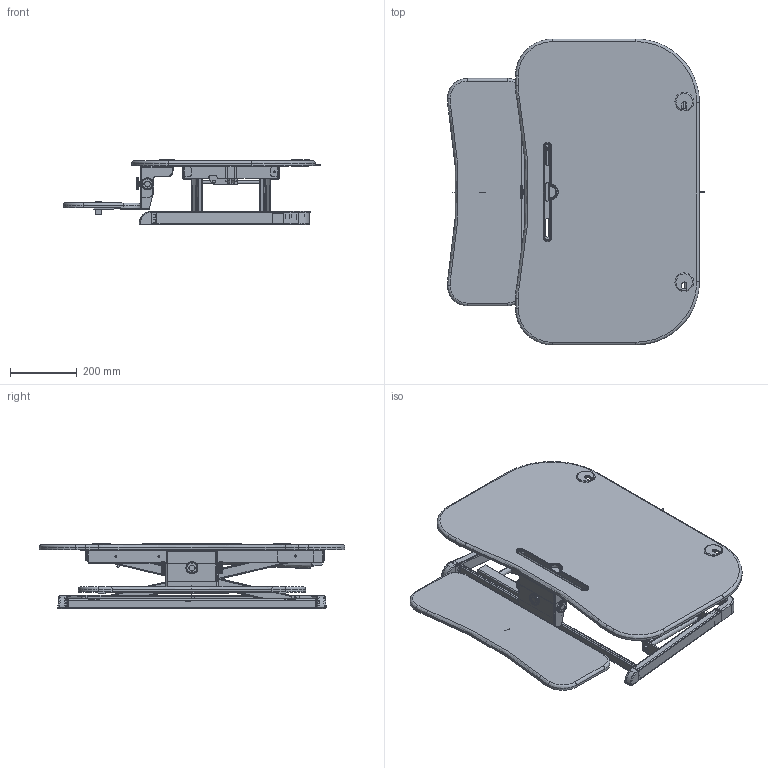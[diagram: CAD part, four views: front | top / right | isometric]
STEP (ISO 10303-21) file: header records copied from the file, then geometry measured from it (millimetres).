
FILE_DESCRIPTION(/* description */ (''),/* implementation_level */ '2;1');
FILE_NAME(/* name */ 'JI-U82~1',/* time_stamp */ '2020-11-05T10:46:57+08:00',/* author */ (''),/* organization */ (''),/* preprocessor_version */ 'ST-DEVELOPER v16.5',/* originating_system */ '',/* authorisation */ '');
FILE_SCHEMA (('AUTOMOTIVE_DESIGN'));
Products named in the file (48): Document; 01-G4-2-_20; ZHUOB-1-X-1_8_1_2_1_12; LUOMU-MEIHUA_1_1_2_1_8; 01-G6_4; 01-G5_19; 01-G4_30; 1-12-2_11; ZHUOB-1-DA_18_1_2_1_22; 1-PLA_39; XIANHE_5; HM-N2_15; HM-M_6; HM-N_8; PRT0036-R_18; 1-15_3; ASM0006-DDTG-LONG_ASM_2_ASM; 001-GDDTG__2; 01-GG2__5; 图块 02; JI-U8-1_11; PRT0037_29; PRT0036_44; 2-2-1_28; 01-8-2_32; 图块 01; 14X30_15; 2-2_51; 18X358-5_ASM_12_ASM; 18X1X358-5_43_ASM; 18X1X358-5_43_1; 18X1X358-5_43_2; 18X1X358-5_43_3; LUOWEN-TIEPIAN_6_1_2_15; 1-ZHOUCHENG_9; 18XNEI_ASM_30_ASM; 18X1XJUGUANG_52_ASM; 18X1XJUGUANG_52_1; 18X1XJUGUANG_52_2; 18X1XJUGUANG_52_3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
Assembly tree (67 placements, depth 4):
  Document
    01-G4-2-_20
    ZHUOB-1-X-1_8_1_2_1_12
    LUOMU-MEIHUA_1_1_2_1_8  x3
    01-G6_4
    01-G5_19
    01-G4_30
    1-12-2_11  x4
    ZHUOB-1-DA_18_1_2_1_22
    1-PLA_39
    XIANHE_5  x2
    HM-N2_15  x2
    HM-M_6
    HM-N_8
    PRT0036-R_18
    1-15_3
    ASM0006-DDTG-LONG_ASM_2_ASM
      001-GDDTG__2
      01-GG2__5
        图块 02
    JI-U8-1_11  x2
    PRT0037_29
    PRT0036_44  x2
    2-2-1_28  x2
    01-8-2_32
      图块 01
    14X30_15
    2-2_51  x2
    18X358-5_ASM_12_ASM
      18X1X358-5_43_ASM
        18X1X358-5_43_1
        18X1X358-5_43_2
        18X1X358-5_43_3
      LUOWEN-TIEPIAN_6_1_2_15  x2
      1-ZHOUCHENG_9  x2
    18XNEI_ASM_30_ASM
      18X1XJUGUANG_52_ASM
        18X1XJUGUANG_52_1
        18X1XJUGUANG_52_2
        18X1XJUGUANG_52_3
      YUANHANP-M6LUOWEN_3_1_2_26  x2
      1-ZHOUCHENG_9  x2
      PRT0012_3  x2
      18-LIANJIEGANG_2
    SULIAO-DUTOU-TUI-OLD_2_1_1_1__1  x2
    1-L-H_7
    JI-U2_41  x2
    2-1_67  x2
    JI-U1_42
Bounding box: 768.91 x 915 x 196.77 mm (x, y, z)
Volume: 11762257.6 mm3; surface area: 3524309.7 mm2
Topology: 55 solids, 88 shells, 4340 faces, 11130 edges, 6982 vertices
Faces by surface type: bspline 4340
Entity records: 206016 total; most frequent: CARTESIAN_POINT 124448, B_SPLINE_CURVE_WITH_KNOTS 14940, ORIENTED_EDGE 12882, PCURVE 12882, DEFINITIONAL_REPRESENTATION 12882, SURFACE_CURVE 6526, EDGE_CURVE 6526, VERTEX_POINT 4121
